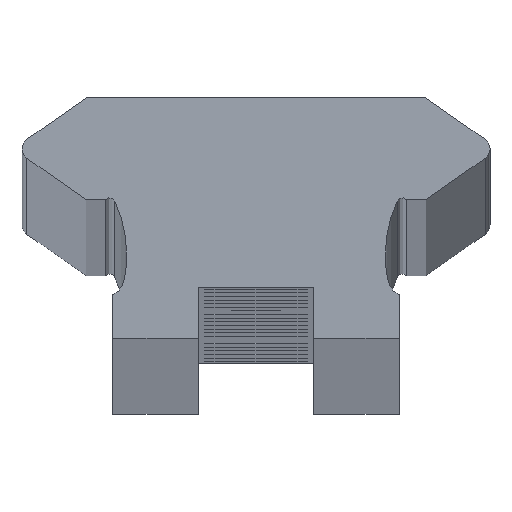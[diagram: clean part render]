
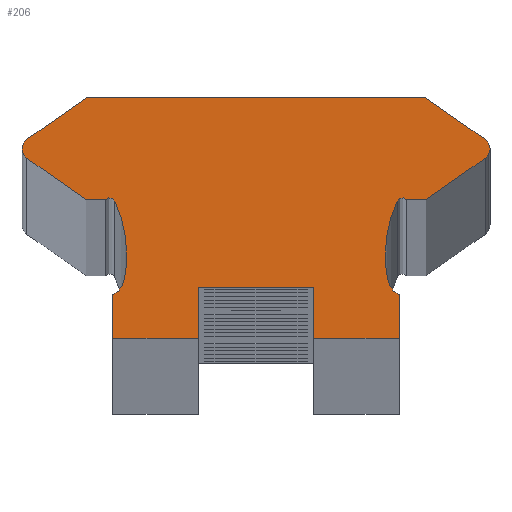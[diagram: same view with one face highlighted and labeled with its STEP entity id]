
A CAD part, top view. The second image highlights one B-rep face of the part: STEP entity #206.
In plain terms, the highlighted planar face has unit normal (0, 0, 1).
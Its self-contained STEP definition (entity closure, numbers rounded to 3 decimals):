
#206=ADVANCED_FACE('',(#534),#535,.T.);
#534=FACE_OUTER_BOUND('',#863,.T.);
#535=PLANE('',#864);
#863=EDGE_LOOP('',(#1868,#1869,#1870,#1871,#1872,#1873,#1874,#1875,#1876,#1877,#1878,#1879,#1880,#1881,#1882,#1883,#1884,#1885,#1886,#1887,#1888,#1889,#1890,#1891,#1892,#1893));
#864=AXIS2_PLACEMENT_3D('',#1894,#1895,#1896);
#1868=ORIENTED_EDGE('',*,*,#2194,.F.);
#1869=ORIENTED_EDGE('',*,*,#2254,.F.);
#1870=ORIENTED_EDGE('',*,*,#2251,.F.);
#1871=ORIENTED_EDGE('',*,*,#2248,.F.);
#1872=ORIENTED_EDGE('',*,*,#2245,.F.);
#1873=ORIENTED_EDGE('',*,*,#2242,.F.);
#1874=ORIENTED_EDGE('',*,*,#2239,.F.);
#1875=ORIENTED_EDGE('',*,*,#2236,.F.);
#1876=ORIENTED_EDGE('',*,*,#1927,.F.);
#1877=ORIENTED_EDGE('',*,*,#2235,.F.);
#1878=ORIENTED_EDGE('',*,*,#2231,.F.);
#1879=ORIENTED_EDGE('',*,*,#2228,.F.);
#1880=ORIENTED_EDGE('',*,*,#2225,.F.);
#1881=ORIENTED_EDGE('',*,*,#2222,.F.);
#1882=ORIENTED_EDGE('',*,*,#1933,.F.);
#1883=ORIENTED_EDGE('',*,*,#2220,.F.);
#1884=ORIENTED_EDGE('',*,*,#2217,.F.);
#1885=ORIENTED_EDGE('',*,*,#2214,.F.);
#1886=ORIENTED_EDGE('',*,*,#1935,.F.);
#1887=ORIENTED_EDGE('',*,*,#2213,.F.);
#1888=ORIENTED_EDGE('',*,*,#2209,.F.);
#1889=ORIENTED_EDGE('',*,*,#2206,.F.);
#1890=ORIENTED_EDGE('',*,*,#2203,.F.);
#1891=ORIENTED_EDGE('',*,*,#2200,.F.);
#1892=ORIENTED_EDGE('',*,*,#1941,.F.);
#1893=ORIENTED_EDGE('',*,*,#2198,.F.);
#1894=CARTESIAN_POINT('',(0.,5.574,1886.0));
#1895=DIRECTION('',(0.0,0.0,1.0));
#1896=DIRECTION('',(1.0,0.0,0.0));
#1927=EDGE_CURVE('',#2256,#2259,#2260,.T.);
#1933=EDGE_CURVE('',#2269,#2265,#2271,.T.);
#1935=EDGE_CURVE('',#2272,#2275,#2276,.T.);
#1941=EDGE_CURVE('',#2285,#2281,#2287,.T.);
#2194=EDGE_CURVE('',#2708,#2709,#2710,.T.);
#2198=EDGE_CURVE('',#2709,#2285,#2716,.T.);
#2200=EDGE_CURVE('',#2281,#2718,#2719,.T.);
#2203=EDGE_CURVE('',#2718,#2723,#2724,.T.);
#2206=EDGE_CURVE('',#2723,#2728,#2729,.T.);
#2209=EDGE_CURVE('',#2728,#2733,#2734,.T.);
#2213=EDGE_CURVE('',#2733,#2272,#2739,.T.);
#2214=EDGE_CURVE('',#2275,#2740,#2741,.T.);
#2217=EDGE_CURVE('',#2740,#2745,#2746,.T.);
#2220=EDGE_CURVE('',#2745,#2269,#2750,.T.);
#2222=EDGE_CURVE('',#2265,#2752,#2753,.T.);
#2225=EDGE_CURVE('',#2752,#2757,#2758,.T.);
#2228=EDGE_CURVE('',#2757,#2762,#2763,.T.);
#2231=EDGE_CURVE('',#2762,#2767,#2768,.T.);
#2235=EDGE_CURVE('',#2767,#2256,#2773,.T.);
#2236=EDGE_CURVE('',#2259,#2774,#2775,.T.);
#2239=EDGE_CURVE('',#2774,#2779,#2780,.T.);
#2242=EDGE_CURVE('',#2779,#2784,#2785,.T.);
#2245=EDGE_CURVE('',#2784,#2789,#2790,.T.);
#2248=EDGE_CURVE('',#2789,#2794,#2795,.T.);
#2251=EDGE_CURVE('',#2794,#2799,#2800,.T.);
#2254=EDGE_CURVE('',#2799,#2708,#2804,.T.);
#2256=VERTEX_POINT('',#2806);
#2259=VERTEX_POINT('',#2810);
#2260=CIRCLE('',#2811,5.653);
#2265=VERTEX_POINT('',#2817);
#2269=VERTEX_POINT('',#2822);
#2271=CIRCLE('',#2825,0.5);
#2272=VERTEX_POINT('',#2826);
#2275=VERTEX_POINT('',#2830);
#2276=CIRCLE('',#2831,0.5);
#2281=VERTEX_POINT('',#2837);
#2285=VERTEX_POINT('',#2842);
#2287=CIRCLE('',#2845,5.653);
#2708=VERTEX_POINT('',#3350);
#2709=VERTEX_POINT('',#3351);
#2710=LINE('',#3352,#3353);
#2716=CIRCLE('',#3362,0.886);
#2718=VERTEX_POINT('',#3364);
#2719=CIRCLE('',#3365,5.653);
#2723=VERTEX_POINT('',#3370);
#2724=CIRCLE('',#3371,0.253);
#2728=VERTEX_POINT('',#3376);
#2729=LINE('',#3377,#3378);
#2733=VERTEX_POINT('',#3384);
#2734=LINE('',#3385,#3386);
#2739=CIRCLE('',#3393,0.5);
#2740=VERTEX_POINT('',#3394);
#2741=LINE('',#3395,#3396);
#2745=VERTEX_POINT('',#3402);
#2746=LINE('',#3403,#3404);
#2750=LINE('',#3410,#3411);
#2752=VERTEX_POINT('',#3414);
#2753=CIRCLE('',#3415,0.5);
#2757=VERTEX_POINT('',#3420);
#2758=LINE('',#3421,#3422);
#2762=VERTEX_POINT('',#3428);
#2763=LINE('',#3429,#3430);
#2767=VERTEX_POINT('',#3436);
#2768=CIRCLE('',#3437,0.253);
#2773=CIRCLE('',#3443,5.653);
#2774=VERTEX_POINT('',#3444);
#2775=CIRCLE('',#3445,0.886);
#2779=VERTEX_POINT('',#3450);
#2780=LINE('',#3451,#3452);
#2784=VERTEX_POINT('',#3458);
#2785=LINE('',#3459,#3460);
#2789=VERTEX_POINT('',#3466);
#2790=LINE('',#3467,#3468);
#2794=VERTEX_POINT('',#3474);
#2795=LINE('',#3475,#3476);
#2799=VERTEX_POINT('',#3482);
#2800=LINE('',#3483,#3484);
#2804=LINE('',#3490,#3491);
#2806=CARTESIAN_POINT('',(5.6,3.598,1886.0));
#2810=CARTESIAN_POINT('',(5.701,2.535,1886.0));
#2811=AXIS2_PLACEMENT_3D('',#3495,#3496,#3497);
#2817=CARTESIAN_POINT('',(10.133,8.2,1886.0));
#2822=CARTESIAN_POINT('',(9.92,8.61,1886.0));
#2825=AXIS2_PLACEMENT_3D('',#3507,#3508,#3509);
#2826=CARTESIAN_POINT('',(-10.133,8.2,1886.0));
#2830=CARTESIAN_POINT('',(-9.92,8.61,1886.0));
#2831=AXIS2_PLACEMENT_3D('',#3511,#3512,#3513);
#2837=CARTESIAN_POINT('',(-5.6,3.598,1886.0));
#2842=CARTESIAN_POINT('',(-5.701,2.535,1886.0));
#2845=AXIS2_PLACEMENT_3D('',#3523,#3524,#3525);
#3350=CARTESIAN_POINT('',(-6.2,0.0,1886.0));
#3351=CARTESIAN_POINT('',(-6.2,1.881,1886.0));
#3352=CARTESIAN_POINT('',(-6.2,0.0,1886.0));
#3353=VECTOR('',#4114,1.0);
#3362=AXIS2_PLACEMENT_3D('',#4118,#4119,#4120);
#3364=CARTESIAN_POINT('',(-6.108,5.941,1886.0));
#3365=AXIS2_PLACEMENT_3D('',#4124,#4125,#4126);
#3370=CARTESIAN_POINT('',(-6.525,5.99,1886.0));
#3371=AXIS2_PLACEMENT_3D('',#4131,#4132,#4133);
#3376=CARTESIAN_POINT('',(-7.349,5.99,1886.0));
#3377=CARTESIAN_POINT('',(-7.349,5.99,1886.0));
#3378=VECTOR('',#4138,1.0);
#3384=CARTESIAN_POINT('',(-9.92,7.79,1886.0));
#3385=CARTESIAN_POINT('',(-9.92,7.79,1886.0));
#3386=VECTOR('',#4141,1.0);
#3393=AXIS2_PLACEMENT_3D('',#4147,#4148,#4149);
#3394=CARTESIAN_POINT('',(-7.349,10.41,1886.0));
#3395=CARTESIAN_POINT('',(-7.349,10.41,1886.0));
#3396=VECTOR('',#4150,1.0);
#3402=CARTESIAN_POINT('',(7.349,10.41,1886.0));
#3403=CARTESIAN_POINT('',(7.349,10.41,1886.0));
#3404=VECTOR('',#4153,1.0);
#3410=CARTESIAN_POINT('',(9.92,8.61,1886.0));
#3411=VECTOR('',#4156,1.0);
#3414=CARTESIAN_POINT('',(9.92,7.79,1886.0));
#3415=AXIS2_PLACEMENT_3D('',#4158,#4159,#4160);
#3420=CARTESIAN_POINT('',(7.349,5.99,1886.0));
#3421=CARTESIAN_POINT('',(7.349,5.99,1886.0));
#3422=VECTOR('',#4165,1.0);
#3428=CARTESIAN_POINT('',(6.525,5.99,1886.0));
#3429=CARTESIAN_POINT('',(7.349,5.99,1886.0));
#3430=VECTOR('',#4168,1.0);
#3436=CARTESIAN_POINT('',(6.108,5.941,1886.0));
#3437=AXIS2_PLACEMENT_3D('',#4171,#4172,#4173);
#3443=AXIS2_PLACEMENT_3D('',#4181,#4182,#4183);
#3444=CARTESIAN_POINT('',(6.2,1.881,1886.0));
#3445=AXIS2_PLACEMENT_3D('',#4184,#4185,#4186);
#3450=CARTESIAN_POINT('',(6.2,0.0,1886.0));
#3451=CARTESIAN_POINT('',(6.2,0.0,1886.0));
#3452=VECTOR('',#4191,1.0);
#3458=CARTESIAN_POINT('',(2.5,0.0,1886.0));
#3459=CARTESIAN_POINT('',(2.5,0.0,1886.0));
#3460=VECTOR('',#4194,1.0);
#3466=CARTESIAN_POINT('',(2.5,2.2,1886.0));
#3467=CARTESIAN_POINT('',(2.5,2.2,1886.0));
#3468=VECTOR('',#4197,1.0);
#3474=CARTESIAN_POINT('',(-2.5,2.2,1886.0));
#3475=CARTESIAN_POINT('',(-2.5,2.2,1886.0));
#3476=VECTOR('',#4200,1.0);
#3482=CARTESIAN_POINT('',(-2.5,0.0,1886.0));
#3483=CARTESIAN_POINT('',(-2.5,0.0,1886.0));
#3484=VECTOR('',#4203,1.0);
#3490=CARTESIAN_POINT('',(-6.2,0.0,1886.0));
#3491=VECTOR('',#4206,1.0);
#3495=CARTESIAN_POINT('',(11.254,3.598,1886.0));
#3496=DIRECTION('',(0.0,0.0,1.0));
#3497=DIRECTION('',(1.0,0.0,0.0));
#3507=CARTESIAN_POINT('',(9.633,8.2,1886.0));
#3508=DIRECTION('',(0.0,0.0,-1.0));
#3509=DIRECTION('',(1.0,0.0,0.0));
#3511=CARTESIAN_POINT('',(-9.633,8.2,1886.0));
#3512=DIRECTION('',(0.0,0.0,-1.0));
#3513=DIRECTION('',(1.0,0.0,0.0));
#3523=CARTESIAN_POINT('',(-11.254,3.598,1886.0));
#3524=DIRECTION('',(0.0,0.0,1.0));
#3525=DIRECTION('',(1.0,0.0,0.0));
#4114=DIRECTION('',(0.,1.0,0.0));
#4118=CARTESIAN_POINT('',(-6.574,2.683,1886.0));
#4119=DIRECTION('',(0.0,0.0,1.0));
#4120=DIRECTION('',(1.0,0.0,0.0));
#4124=CARTESIAN_POINT('',(-11.254,3.598,1886.0));
#4125=DIRECTION('',(0.0,0.0,1.0));
#4126=DIRECTION('',(1.0,0.0,0.0));
#4131=CARTESIAN_POINT('',(-6.333,5.826,1886.0));
#4132=DIRECTION('',(0.0,0.0,1.0));
#4133=DIRECTION('',(1.0,0.0,0.0));
#4138=DIRECTION('',(-1.0,-0.0,-0.0));
#4141=DIRECTION('',(-0.819,0.574,0.0));
#4147=CARTESIAN_POINT('',(-9.633,8.2,1886.0));
#4148=DIRECTION('',(0.0,0.0,-1.0));
#4149=DIRECTION('',(1.0,0.0,0.0));
#4150=DIRECTION('',(0.819,0.574,0.0));
#4153=DIRECTION('',(1.0,0.0,0.0));
#4156=DIRECTION('',(0.819,-0.574,0.0));
#4158=CARTESIAN_POINT('',(9.633,8.2,1886.0));
#4159=DIRECTION('',(0.0,0.0,-1.0));
#4160=DIRECTION('',(1.0,0.0,0.0));
#4165=DIRECTION('',(-0.819,-0.574,-0.0));
#4168=DIRECTION('',(-1.0,0.0,0.0));
#4171=CARTESIAN_POINT('',(6.333,5.826,1886.0));
#4172=DIRECTION('',(0.0,0.0,1.0));
#4173=DIRECTION('',(1.0,0.0,0.0));
#4181=CARTESIAN_POINT('',(11.254,3.598,1886.0));
#4182=DIRECTION('',(0.0,0.0,1.0));
#4183=DIRECTION('',(1.0,0.0,0.0));
#4184=CARTESIAN_POINT('',(6.574,2.683,1886.0));
#4185=DIRECTION('',(0.0,0.0,1.0));
#4186=DIRECTION('',(1.0,0.0,0.0));
#4191=DIRECTION('',(0.,-1.0,0.0));
#4194=DIRECTION('',(-1.0,-0.0,-0.0));
#4197=DIRECTION('',(0.0,1.0,0.0));
#4200=DIRECTION('',(-1.0,-0.0,-0.0));
#4203=DIRECTION('',(-0.0,-1.0,-0.0));
#4206=DIRECTION('',(-1.0,-0.0,-0.0));
